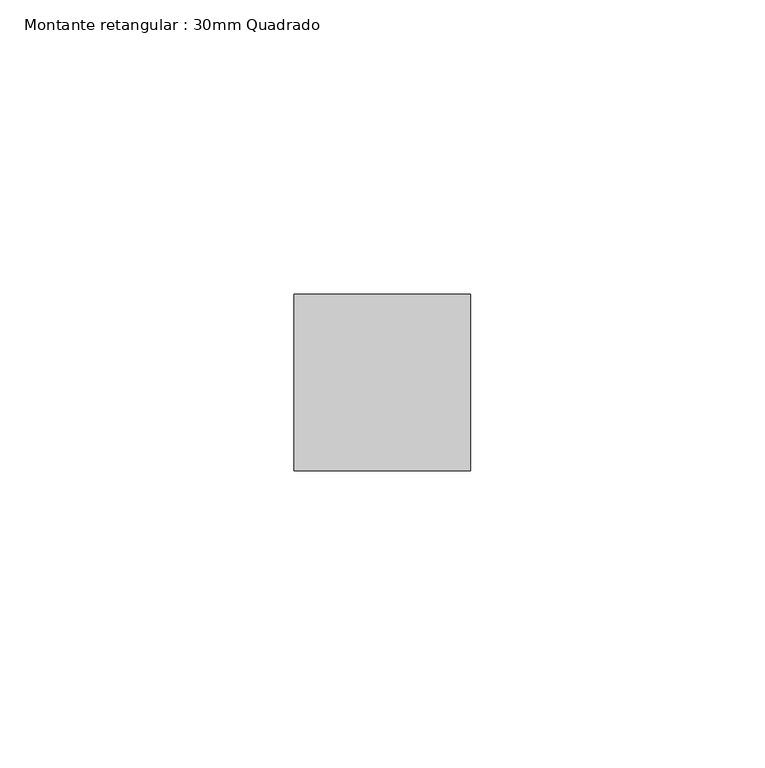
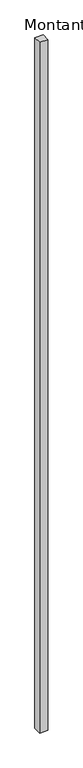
"""IFC4 building model written with IfcOpenShell, lengths in millimetres: member geometry, Montante retangular : 30mm Quadrado."""

from ifc_helpers import new_model, si_unit, frame, origin, place, context, project, spatial, polyline, outline, extrude, source, transform, mapped, element, save


def montante_retangular_30mm_quadrado_052a7b02(model_context):
    return source(origin(), model_context, "Body", "SweptSolid", [
        extrude(outline(polyline([(15.0, 15.0), (15.0, -15.0), (-15.0, -15.0), (-15.0, 15.0), (15.0, 15.0)])), frame((0.0, 0.0, -2640.0), z_axis=(0.0, 0.0, 1.0), x_axis=(1.0, 0.0, 0.0)), (0.0, 0.0, 1.0), 2640.0),
    ])


if __name__ == "__main__":
    model = new_model("IFC4")
    model_context = context("Model", 3, world=origin())
    ifc_project = project(units=[si_unit("LENGTHUNIT", "METRE", prefix="MILLI")], contexts=[model_context])
    site = spatial("IfcSite", under=ifc_project)
    building = spatial("IfcBuilding", under=site)
    placement = place(None, origin())
    montante_retangular_30mm_quadrado_shape = montante_retangular_30mm_quadrado_052a7b02(model_context)
    element("IfcMember", 1, ObjectType="Montante retangular : 30mm Quadrado", at=placement, inside=building, context=model_context, shape_type="MappedRepresentation", body=[
        mapped(montante_retangular_30mm_quadrado_shape, transform((0.0, 0.0, 0.0), x_axis=(1.0, 0.0, 0.0), y_axis=(0.0, 1.0, 0.0), z_axis=(0.0, 0.0, 1.0))),
    ])
    save(model, "model.ifc")
